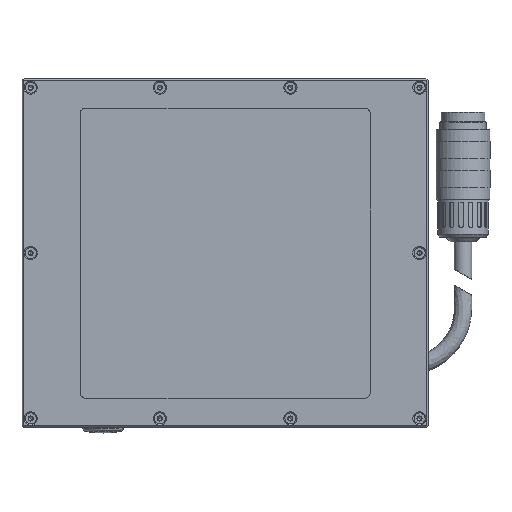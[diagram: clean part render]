
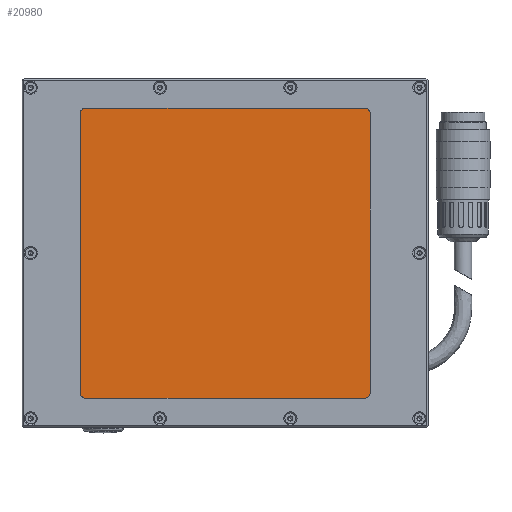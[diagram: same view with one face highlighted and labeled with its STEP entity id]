
A CAD part, top view. The second image highlights one B-rep face of the part: STEP entity #20980.
In plain terms, the highlighted planar face has unit normal (0, 0, 1).
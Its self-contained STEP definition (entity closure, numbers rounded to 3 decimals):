
#1001=LINE('',#37361,#1934);
#1005=LINE('',#37369,#1938);
#1008=LINE('',#37375,#1941);
#1011=LINE('',#37381,#1944);
#1934=VECTOR('',#25903,1000.);
#1938=VECTOR('',#25909,1000.);
#1941=VECTOR('',#25914,1000.);
#1944=VECTOR('',#25919,1000.);
#6477=ORIENTED_EDGE('',*,*,#8850,.T.);
#6478=ORIENTED_EDGE('',*,*,#8853,.T.);
#6479=ORIENTED_EDGE('',*,*,#8847,.T.);
#6480=ORIENTED_EDGE('',*,*,#8854,.T.);
#6481=ORIENTED_EDGE('',*,*,#8844,.T.);
#6482=ORIENTED_EDGE('',*,*,#8855,.T.);
#6483=ORIENTED_EDGE('',*,*,#8840,.T.);
#6484=ORIENTED_EDGE('',*,*,#8852,.T.);
#8840=EDGE_CURVE('',#10330,#10331,#1001,.T.);
#8844=EDGE_CURVE('',#10333,#10332,#1005,.T.);
#8847=EDGE_CURVE('',#10335,#10334,#1008,.T.);
#8850=EDGE_CURVE('',#10337,#10336,#1011,.T.);
#8852=EDGE_CURVE('',#10331,#10337,#11095,.T.);
#8853=EDGE_CURVE('',#10336,#10335,#11096,.T.);
#8854=EDGE_CURVE('',#10334,#10333,#11097,.T.);
#8855=EDGE_CURVE('',#10332,#10330,#11098,.T.);
#10330=VERTEX_POINT('',#37362);
#10331=VERTEX_POINT('',#37363);
#10332=VERTEX_POINT('',#37368);
#10333=VERTEX_POINT('',#37370);
#10334=VERTEX_POINT('',#37374);
#10335=VERTEX_POINT('',#37376);
#10336=VERTEX_POINT('',#37380);
#10337=VERTEX_POINT('',#37382);
#11095=CIRCLE('',#22397,2.);
#11096=CIRCLE('',#22399,2.);
#11097=CIRCLE('',#22401,2.);
#11098=CIRCLE('',#22403,2.);
#12070=EDGE_LOOP('',(#6477,#6478,#6479,#6480,#6481,#6482,#6483,#6484));
#13255=FACE_BOUND('',#12070,.T.);
#13887=PLANE('',#22404);
#20980=ADVANCED_FACE('',(#13255),#13887,.T.);
#22397=AXIS2_PLACEMENT_3D('',#37385,#25923,#25924);
#22399=AXIS2_PLACEMENT_3D('',#37387,#25927,#25928);
#22401=AXIS2_PLACEMENT_3D('',#37389,#25931,#25932);
#22403=AXIS2_PLACEMENT_3D('',#37391,#25935,#25936);
#22404=AXIS2_PLACEMENT_3D('',#37392,#25937,#25938);
#25903=DIRECTION('',(-1.,0.,0.));
#25909=DIRECTION('',(0.,1.,0.));
#25914=DIRECTION('',(1.,0.,0.));
#25919=DIRECTION('',(0.,-1.,0.));
#25923=DIRECTION('',(0.,0.,1.));
#25924=DIRECTION('',(1.,0.,0.));
#25927=DIRECTION('',(0.,0.,1.));
#25928=DIRECTION('',(1.,0.,0.));
#25931=DIRECTION('',(0.,0.,1.));
#25932=DIRECTION('',(1.,0.,0.));
#25935=DIRECTION('',(0.,0.,1.));
#25936=DIRECTION('',(1.,0.,0.));
#25937=DIRECTION('',(0.,0.,1.));
#25938=DIRECTION('',(1.,0.,0.));
#37361=CARTESIAN_POINT('',(50.5,50.5,23.8));
#37362=CARTESIAN_POINT('',(48.5,50.5,23.8));
#37363=CARTESIAN_POINT('',(-48.5,50.5,23.8));
#37368=CARTESIAN_POINT('',(50.5,48.5,23.8));
#37369=CARTESIAN_POINT('',(50.5,-50.5,23.8));
#37370=CARTESIAN_POINT('',(50.5,-48.5,23.8));
#37374=CARTESIAN_POINT('',(48.5,-50.5,23.8));
#37375=CARTESIAN_POINT('',(-50.5,-50.5,23.8));
#37376=CARTESIAN_POINT('',(-48.5,-50.5,23.8));
#37380=CARTESIAN_POINT('',(-50.5,-48.5,23.8));
#37381=CARTESIAN_POINT('',(-50.5,50.5,23.8));
#37382=CARTESIAN_POINT('',(-50.5,48.5,23.8));
#37385=CARTESIAN_POINT('',(-48.5,48.5,23.8));
#37387=CARTESIAN_POINT('',(-48.5,-48.5,23.8));
#37389=CARTESIAN_POINT('',(48.5,-48.5,23.8));
#37391=CARTESIAN_POINT('',(48.5,48.5,23.8));
#37392=CARTESIAN_POINT('',(0.,0.,23.8));
